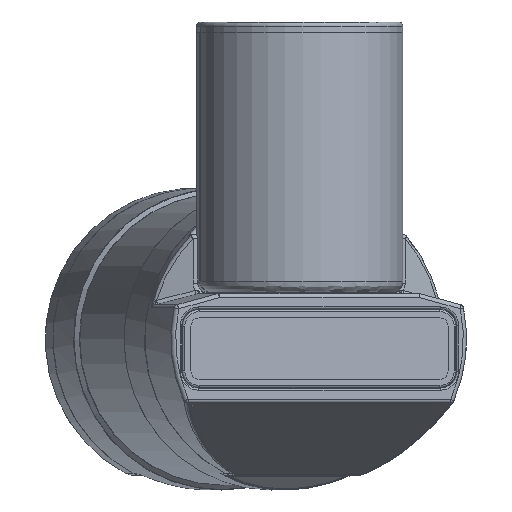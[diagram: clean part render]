
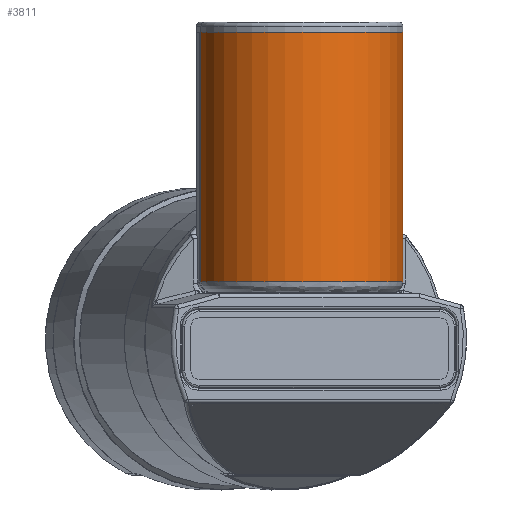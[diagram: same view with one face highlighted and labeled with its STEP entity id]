
A CAD part, front view. The second image highlights one B-rep face of the part: STEP entity #3811.
In plain terms, the highlighted cylindrical face has radius 49 mm (diameter 98 mm), a partial arc.
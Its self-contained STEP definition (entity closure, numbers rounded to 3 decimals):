
#1217 = FACE_OUTER_BOUND ( 'NONE', #28110, .T. ) ;
#1389 = VECTOR ( 'NONE', #61552, 1000. ) ;
#3811 = ADVANCED_FACE ( 'NONE', ( #1217 ), #9647, .T. ) ;
#9647 = CYLINDRICAL_SURFACE ( 'NONE', #78194, 49. ) ;
#10959 = EDGE_CURVE ( 'NONE', #72565, #66467, #63347, .T. ) ;
#17400 = ORIENTED_EDGE ( 'NONE', *, *, #17747, .F. ) ;
#17747 = EDGE_CURVE ( 'NONE', #66467, #69496, #54145, .T. ) ;
#18587 = ORIENTED_EDGE ( 'NONE', *, *, #10959, .F. ) ;
#22479 = CIRCLE ( 'NONE', #47069, 49. ) ;
#22888 = CARTESIAN_POINT ( 'NONE',  ( 859.343, 127.253, 15.963 ) ) ;
#23904 = DIRECTION ( 'NONE',  ( 0., 0., -1. ) ) ;
#28110 = EDGE_LOOP ( 'NONE', ( #48691, #76618, #17400, #18587 ) ) ;
#28961 = DIRECTION ( 'NONE',  ( -0.193, 0.981, 0. ) ) ;
#30546 = DIRECTION ( 'NONE',  ( 0., 0., -1. ) ) ;
#30911 = VERTEX_POINT ( 'NONE', #39211 ) ;
#34212 = CARTESIAN_POINT ( 'NONE',  ( 907.418, 136.729, -44.037 ) ) ;
#39211 = CARTESIAN_POINT ( 'NONE',  ( 811.268, 117.778, 15.963 ) ) ;
#41820 = CARTESIAN_POINT ( 'NONE',  ( 859.343, 127.253, 15.963 ) ) ;
#43196 = AXIS2_PLACEMENT_3D ( 'NONE', #66613, #30546, #72628 ) ;
#44788 = CARTESIAN_POINT ( 'NONE',  ( 907.418, 136.729, -104.037 ) ) ;
#47069 = AXIS2_PLACEMENT_3D ( 'NONE', #22888, #65040, #28961 ) ;
#47332 = VECTOR ( 'NONE', #76316, 1000. ) ;
#47605 = LINE ( 'NONE', #55469, #1389 ) ;
#48147 = DIRECTION ( 'NONE',  ( -0.193, 0.981, 0. ) ) ;
#48691 = ORIENTED_EDGE ( 'NONE', *, *, #58984, .T. ) ;
#54145 = CIRCLE ( 'NONE', #43196, 49. ) ;
#55469 = CARTESIAN_POINT ( 'NONE',  ( 811.268, 117.778, -44.037 ) ) ;
#56478 = CARTESIAN_POINT ( 'NONE',  ( 907.418, 136.729, 15.963 ) ) ;
#58984 = EDGE_CURVE ( 'NONE', #72565, #30911, #22479, .T. ) ;
#61552 = DIRECTION ( 'NONE',  ( 0., 0., 1. ) ) ;
#63347 = LINE ( 'NONE', #34212, #47332 ) ;
#65040 = DIRECTION ( 'NONE',  ( 0., 0., -1. ) ) ;
#66467 = VERTEX_POINT ( 'NONE', #44788 ) ;
#66613 = CARTESIAN_POINT ( 'NONE',  ( 859.343, 127.253, -104.037 ) ) ;
#69496 = VERTEX_POINT ( 'NONE', #77307 ) ;
#72565 = VERTEX_POINT ( 'NONE', #56478 ) ;
#72628 = DIRECTION ( 'NONE',  ( 0.981, 0.193, 0. ) ) ;
#74146 = EDGE_CURVE ( 'NONE', #69496, #30911, #47605, .T. ) ;
#76316 = DIRECTION ( 'NONE',  ( 0., 0., -1. ) ) ;
#76618 = ORIENTED_EDGE ( 'NONE', *, *, #74146, .F. ) ;
#77307 = CARTESIAN_POINT ( 'NONE',  ( 811.268, 117.778, -104.037 ) ) ;
#78194 = AXIS2_PLACEMENT_3D ( 'NONE', #41820, #23904, #48147 ) ;
